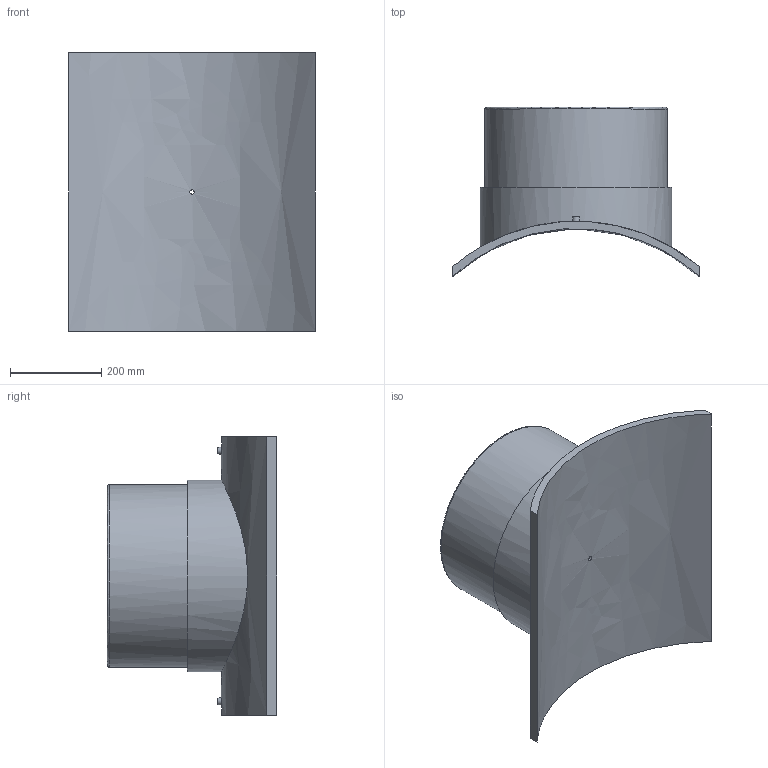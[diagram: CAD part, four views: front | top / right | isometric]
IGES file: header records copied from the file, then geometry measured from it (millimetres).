
Global section: file name: 495803800400T; native system: Autodesk Inventor 2019; preprocessor: unknown; author: KIM; date: 20240404.115806; units: millimetre
Bounding box: 540 x 370.87 x 610 mm (x, y, z)
Volume: 19314388.9 mm3; surface area: 1393092 mm2
Topology: 1 solids, 1 shells, 29 faces, 60 edges, 43 vertices
Faces by surface type: bspline 29
